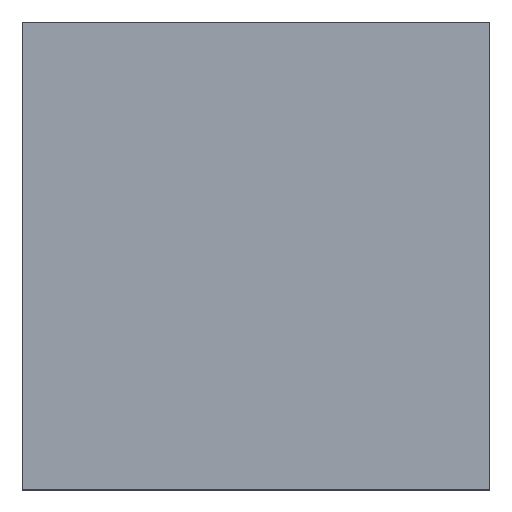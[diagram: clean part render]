
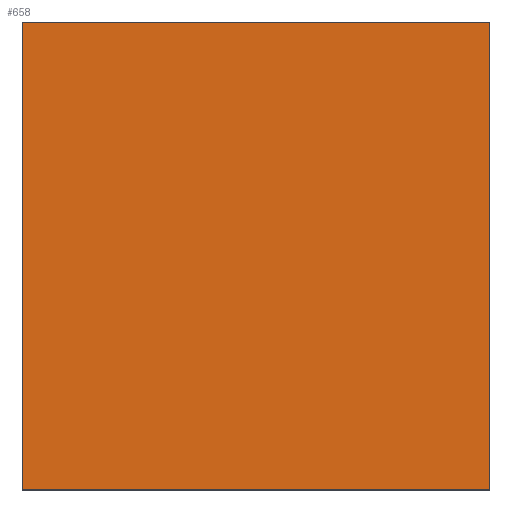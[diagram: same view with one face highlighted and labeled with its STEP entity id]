
A CAD part, top view. The second image highlights one B-rep face of the part: STEP entity #658.
In plain terms, the highlighted planar face has unit normal (0, 0, 1).
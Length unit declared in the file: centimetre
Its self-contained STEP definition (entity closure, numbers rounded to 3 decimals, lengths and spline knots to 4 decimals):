
#11 = DIRECTION ( 'NONE',  ( 0., -1., 0. ) ) ;
#25 = CARTESIAN_POINT ( 'NONE',  ( 1000., 1000., 1000. ) ) ;
#27 = CARTESIAN_POINT ( 'NONE',  ( 1000., 1000., 1000. ) ) ;
#56 = ORIENTED_EDGE ( 'NONE', *, *, #479, .T. ) ;
#60 = CARTESIAN_POINT ( 'NONE',  ( 0., 1000., 1000. ) ) ;
#94 = CARTESIAN_POINT ( 'NONE',  ( 0., 0., 1000. ) ) ;
#99 = ORIENTED_EDGE ( 'NONE', *, *, #649, .T. ) ;
#101 = DIRECTION ( 'NONE',  ( 0., 0., 1. ) ) ;
#117 = AXIS2_PLACEMENT_3D ( 'NONE', #638, #101, #162 ) ;
#118 = VERTEX_POINT ( 'NONE', #27 ) ;
#162 = DIRECTION ( 'NONE',  ( 1., 0., 0. ) ) ;
#173 = VECTOR ( 'NONE', #618, 100. ) ;
#195 = DIRECTION ( 'NONE',  ( -1., 0., 0. ) ) ;
#205 = ORIENTED_EDGE ( 'NONE', *, *, #449, .T. ) ;
#230 = VERTEX_POINT ( 'NONE', #441 ) ;
#293 = DIRECTION ( 'NONE',  ( 0., 1., 0. ) ) ;
#321 = VERTEX_POINT ( 'NONE', #424 ) ;
#330 = FACE_OUTER_BOUND ( 'NONE', #339, .T. ) ;
#339 = EDGE_LOOP ( 'NONE', ( #56, #99, #707, #205 ) ) ;
#396 = LINE ( 'NONE', #94, #173 ) ;
#411 = EDGE_CURVE ( 'NONE', #230, #118, #553, .T. ) ;
#424 = CARTESIAN_POINT ( 'NONE',  ( 0., 1000., 1000. ) ) ;
#435 = VECTOR ( 'NONE', #11, 100. ) ;
#440 = CARTESIAN_POINT ( 'NONE',  ( 0., 0., 1000. ) ) ;
#441 = CARTESIAN_POINT ( 'NONE',  ( 1000., 0., 1000. ) ) ;
#449 = EDGE_CURVE ( 'NONE', #118, #321, #537, .T. ) ;
#451 = VERTEX_POINT ( 'NONE', #440 ) ;
#479 = EDGE_CURVE ( 'NONE', #321, #451, #662, .T. ) ;
#517 = VECTOR ( 'NONE', #293, 100. ) ;
#537 = LINE ( 'NONE', #594, #601 ) ;
#553 = LINE ( 'NONE', #25, #517 ) ;
#569 = PLANE ( 'NONE',  #117 ) ;
#594 = CARTESIAN_POINT ( 'NONE',  ( 0., 1000., 1000. ) ) ;
#601 = VECTOR ( 'NONE', #195, 100. ) ;
#618 = DIRECTION ( 'NONE',  ( 1., 0., 0. ) ) ;
#638 = CARTESIAN_POINT ( 'NONE',  ( 0., 0., 1000. ) ) ;
#649 = EDGE_CURVE ( 'NONE', #451, #230, #396, .T. ) ;
#658 = ADVANCED_FACE ( 'NONE', ( #330 ), #569, .T. ) ;
#662 = LINE ( 'NONE', #60, #435 ) ;
#707 = ORIENTED_EDGE ( 'NONE', *, *, #411, .T. ) ;
